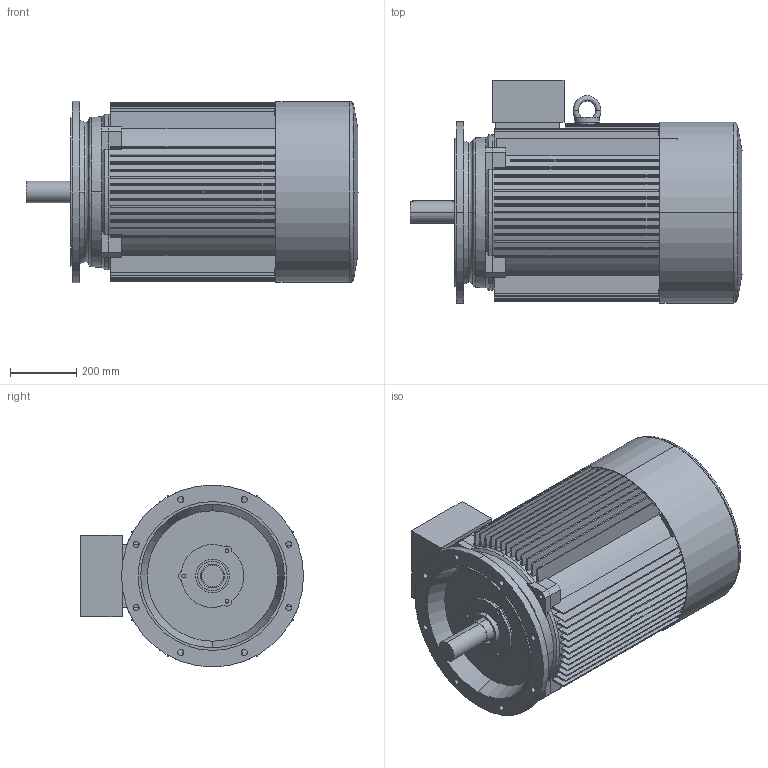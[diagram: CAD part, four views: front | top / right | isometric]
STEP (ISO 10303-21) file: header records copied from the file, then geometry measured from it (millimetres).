
FILE_DESCRIPTION (( 'STEP AP203' ), '1' );
FILE_NAME ('M3-280M-2p-FF-B5.STEP', '2019-07-09T10:29:14', ( '' ), ( '' ), 'SwSTEP 2.0', 'SolidWorks 2012', '' );
FILE_SCHEMA (( 'CONFIG_CONTROL_DESIGN' ));
Length unit declared in the file: millimetre
Products named in the file (8): M3-280M-2p-FF-B5; Y2-280-2-ｦﾈﾁﾂ-ｩﾃ_-ｼ+､; Y2-280ｦｾﾂ-ｩﾃ_-ｼ+､; Y2-250-4.6.8ú¼280-2Ã¦Íß¦ð-Ô©Ã_-¼+¤; 280ﾁｧ+ﾀ_-ｼ+､; Y2-280M+ｷﾎｨB5_-ｼ+､; Y2-280S.M-2ﾍﾟ_-ｼ+､; Y2-280-2ﾀiﾍ_-ｼ+､
Assembly tree (7 placements, depth 2):
  M3-280M-2p-FF-B5
    Y2-280-2ﾀiﾍ_-ｼ+､
    Y2-280S.M-2ﾍﾟ_-ｼ+､
    Y2-280M+ｷﾎｨB5_-ｼ+､
    280ﾁｧ+ﾀ_-ｼ+､
    Y2-280-2-ｦﾈﾁﾂ-ｩﾃ_-ｼ+､
    Y2-280ｦｾﾂ-ｩﾃ_-ｼ+､
    Y2-250-4.6.8ú¼280-2Ã¦Íß¦ð-Ô©Ã_-¼+¤
Bounding box: 1003.53 x 674 x 550 mm (x, y, z)
Volume: 35146141.6 mm3; surface area: 6888964.2 mm2
Topology: 7 solids, 7 shells, 751 faces, 2004 edges, 1329 vertices
Faces by surface type: plane 409, cylinder 283, cone 33, bspline 26
Entity records: 26291 total; most frequent: CARTESIAN_POINT 6039, DIRECTION 4159, ORIENTED_EDGE 4008, EDGE_CURVE 2004, AXIS2_PLACEMENT_3D 1505, VERTEX_POINT 1329, VECTOR 1149, LINE 1149
